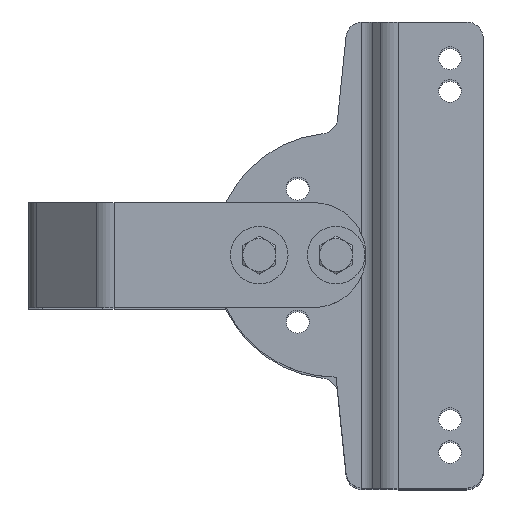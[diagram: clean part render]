
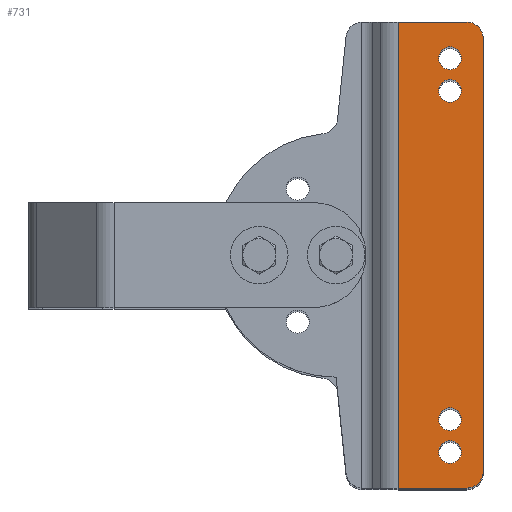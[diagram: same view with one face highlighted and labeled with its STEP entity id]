
A CAD part, top view. The second image highlights one B-rep face of the part: STEP entity #731.
In plain terms, the highlighted planar face has unit normal (0, 0, 1) as drawn and (0, -1, 0) by its records, which use the part's own axes.
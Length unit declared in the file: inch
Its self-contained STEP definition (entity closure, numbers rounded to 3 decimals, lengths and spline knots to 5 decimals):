
#30 = VERTEX_POINT ( 'NONE', #3849 ) ;
#85 = CIRCLE ( 'NONE', #738, 0.175 ) ;
#163 = FACE_BOUND ( 'NONE', #3963, .T. ) ;
#170 = DIRECTION ( 'NONE',  ( 0., 0., -1. ) ) ;
#196 = CARTESIAN_POINT ( 'NONE',  ( -0.895, -0.135, 3. ) ) ;
#244 = CIRCLE ( 'NONE', #898, 0.175 ) ;
#258 = AXIS2_PLACEMENT_3D ( 'NONE', #4131, #577, #2174 ) ;
#291 = ORIENTED_EDGE ( 'NONE', *, *, #1132, .T. ) ;
#297 = CIRCLE ( 'NONE', #3199, 0.175 ) ;
#452 = DIRECTION ( 'NONE',  ( 0., 0., 1. ) ) ;
#470 = CARTESIAN_POINT ( 'NONE',  ( -1.4, -0.135, 3.55 ) ) ;
#501 = CARTESIAN_POINT ( 'NONE',  ( -0.895, -0.135, -3.175 ) ) ;
#529 = ORIENTED_EDGE ( 'NONE', *, *, #2157, .F. ) ;
#577 = DIRECTION ( 'NONE',  ( 0., 1., 0. ) ) ;
#585 = AXIS2_PLACEMENT_3D ( 'NONE', #5068, #2739, #675 ) ;
#623 = ORIENTED_EDGE ( 'NONE', *, *, #2195, .T. ) ;
#629 = ORIENTED_EDGE ( 'NONE', *, *, #3645, .T. ) ;
#675 = DIRECTION ( 'NONE',  ( 0., 0., 1. ) ) ;
#729 = EDGE_LOOP ( 'NONE', ( #3059, #1850, #3751, #529, #2553, #629 ) ) ;
#731 = ADVANCED_FACE ( 'NONE', ( #163, #4856, #3334, #2952, #2165 ), #3233, .F. ) ;
#738 = AXIS2_PLACEMENT_3D ( 'NONE', #2720, #4288, #2352 ) ;
#745 = EDGE_CURVE ( 'NONE', #30, #4393, #4414, .T. ) ;
#765 = EDGE_CURVE ( 'NONE', #3121, #3750, #1192, .T. ) ;
#778 = CARTESIAN_POINT ( 'NONE',  ( -1.15, -0.135, -3.3 ) ) ;
#787 = EDGE_CURVE ( 'NONE', #2708, #1738, #2282, .T. ) ;
#814 = EDGE_CURVE ( 'NONE', #2145, #3464, #2679, .T. ) ;
#851 = CARTESIAN_POINT ( 'NONE',  ( -0.895, -0.135, 2.5 ) ) ;
#898 = AXIS2_PLACEMENT_3D ( 'NONE', #4473, #4005, #452 ) ;
#978 = CARTESIAN_POINT ( 'NONE',  ( -1.4, -0.135, -3.3 ) ) ;
#1007 = VECTOR ( 'NONE', #1923, 39.37008 ) ;
#1069 = ORIENTED_EDGE ( 'NONE', *, *, #4192, .T. ) ;
#1082 = CARTESIAN_POINT ( 'NONE',  ( -0.895, -0.135, -2.325 ) ) ;
#1123 = CARTESIAN_POINT ( 'NONE',  ( -0.895, -0.135, 2.325 ) ) ;
#1125 = CARTESIAN_POINT ( 'NONE',  ( -0.895, -0.135, -2.825 ) ) ;
#1132 = EDGE_CURVE ( 'NONE', #1738, #2708, #297, .T. ) ;
#1138 = CARTESIAN_POINT ( 'NONE',  ( -0.10355, -0.135, 3.55 ) ) ;
#1192 = CIRCLE ( 'NONE', #5009, 0.175 ) ;
#1245 = DIRECTION ( 'NONE',  ( 0., 0., 1. ) ) ;
#1433 = LINE ( 'NONE', #3032, #4480 ) ;
#1451 = CARTESIAN_POINT ( 'NONE',  ( -0.895, -0.135, 3. ) ) ;
#1454 = ORIENTED_EDGE ( 'NONE', *, *, #4126, .T. ) ;
#1636 = CARTESIAN_POINT ( 'NONE',  ( -0.895, -0.135, -2.675 ) ) ;
#1642 = DIRECTION ( 'NONE',  ( 0., 0., -1. ) ) ;
#1663 = CIRCLE ( 'NONE', #4233, 0.25 ) ;
#1675 = CARTESIAN_POINT ( 'NONE',  ( -1.15, -0.135, -3.55 ) ) ;
#1738 = VERTEX_POINT ( 'NONE', #1123 ) ;
#1779 = EDGE_CURVE ( 'NONE', #4449, #1908, #85, .T. ) ;
#1807 = AXIS2_PLACEMENT_3D ( 'NONE', #196, #3365, #4941 ) ;
#1820 = CARTESIAN_POINT ( 'NONE',  ( -1.15, -0.135, 3.55 ) ) ;
#1850 = ORIENTED_EDGE ( 'NONE', *, *, #2634, .T. ) ;
#1908 = VERTEX_POINT ( 'NONE', #1636 ) ;
#1921 = VERTEX_POINT ( 'NONE', #501 ) ;
#1923 = DIRECTION ( 'NONE',  ( 1., 0., 0. ) ) ;
#1935 = AXIS2_PLACEMENT_3D ( 'NONE', #2936, #4791, #1642 ) ;
#1957 = CARTESIAN_POINT ( 'NONE',  ( -0.10355, -0.135, -3.55 ) ) ;
#2000 = CARTESIAN_POINT ( 'NONE',  ( -1.4, -0.135, -3.55 ) ) ;
#2027 = CARTESIAN_POINT ( 'NONE',  ( -0.895, -0.135, 3.175 ) ) ;
#2054 = DIRECTION ( 'NONE',  ( 0., 0., -1. ) ) ;
#2145 = VERTEX_POINT ( 'NONE', #1820 ) ;
#2157 = EDGE_CURVE ( 'NONE', #3464, #4892, #1433, .T. ) ;
#2165 = FACE_OUTER_BOUND ( 'NONE', #729, .T. ) ;
#2170 = CIRCLE ( 'NONE', #585, 0.175 ) ;
#2174 = DIRECTION ( 'NONE',  ( 0., 0., 1. ) ) ;
#2190 = CARTESIAN_POINT ( 'NONE',  ( -0.895, -0.135, 2.5 ) ) ;
#2195 = EDGE_CURVE ( 'NONE', #1908, #4449, #2248, .T. ) ;
#2201 = AXIS2_PLACEMENT_3D ( 'NONE', #470, #4803, #1245 ) ;
#2224 = EDGE_LOOP ( 'NONE', ( #4400, #623 ) ) ;
#2248 = CIRCLE ( 'NONE', #258, 0.175 ) ;
#2282 = CIRCLE ( 'NONE', #2955, 0.175 ) ;
#2331 = EDGE_CURVE ( 'NONE', #1921, #3504, #2170, .T. ) ;
#2352 = DIRECTION ( 'NONE',  ( 0., 0., 1. ) ) ;
#2441 = DIRECTION ( 'NONE',  ( 0., 1., 0. ) ) ;
#2450 = CARTESIAN_POINT ( 'NONE',  ( -1.4, -0.135, 3.55 ) ) ;
#2553 = ORIENTED_EDGE ( 'NONE', *, *, #814, .F. ) ;
#2625 = DIRECTION ( 'NONE',  ( 0., 1., 0. ) ) ;
#2634 = EDGE_CURVE ( 'NONE', #4393, #3143, #1663, .T. ) ;
#2638 = CARTESIAN_POINT ( 'NONE',  ( -0.895, -0.135, 2.825 ) ) ;
#2679 = LINE ( 'NONE', #4597, #3684 ) ;
#2708 = VERTEX_POINT ( 'NONE', #3609 ) ;
#2720 = CARTESIAN_POINT ( 'NONE',  ( -0.895, -0.135, -2.5 ) ) ;
#2739 = DIRECTION ( 'NONE',  ( 0., 1., 0. ) ) ;
#2765 = DIRECTION ( 'NONE',  ( 0., 0., 1. ) ) ;
#2776 = EDGE_LOOP ( 'NONE', ( #1454, #4369 ) ) ;
#2936 = CARTESIAN_POINT ( 'NONE',  ( -1.15, -0.135, 3.3 ) ) ;
#2943 = DIRECTION ( 'NONE',  ( 0., 0., -1. ) ) ;
#2952 = FACE_BOUND ( 'NONE', #2224, .T. ) ;
#2955 = AXIS2_PLACEMENT_3D ( 'NONE', #2190, #3841, #5034 ) ;
#3032 = CARTESIAN_POINT ( 'NONE',  ( -0.10355, -0.135, 3.55 ) ) ;
#3059 = ORIENTED_EDGE ( 'NONE', *, *, #745, .T. ) ;
#3118 = EDGE_CURVE ( 'NONE', #3143, #4892, #4696, .T. ) ;
#3121 = VERTEX_POINT ( 'NONE', #2027 ) ;
#3138 = ORIENTED_EDGE ( 'NONE', *, *, #765, .T. ) ;
#3143 = VERTEX_POINT ( 'NONE', #1675 ) ;
#3199 = AXIS2_PLACEMENT_3D ( 'NONE', #851, #2441, #2943 ) ;
#3233 = PLANE ( 'NONE',  #2201 ) ;
#3334 = FACE_BOUND ( 'NONE', #4533, .T. ) ;
#3365 = DIRECTION ( 'NONE',  ( 0., 1., 0. ) ) ;
#3454 = DIRECTION ( 'NONE',  ( 1., 0., 0. ) ) ;
#3464 = VERTEX_POINT ( 'NONE', #1138 ) ;
#3504 = VERTEX_POINT ( 'NONE', #1125 ) ;
#3609 = CARTESIAN_POINT ( 'NONE',  ( -0.895, -0.135, 2.675 ) ) ;
#3645 = EDGE_CURVE ( 'NONE', #2145, #30, #4323, .T. ) ;
#3684 = VECTOR ( 'NONE', #3454, 39.37008 ) ;
#3699 = ORIENTED_EDGE ( 'NONE', *, *, #787, .T. ) ;
#3750 = VERTEX_POINT ( 'NONE', #2638 ) ;
#3751 = ORIENTED_EDGE ( 'NONE', *, *, #3118, .T. ) ;
#3841 = DIRECTION ( 'NONE',  ( 0., 1., 0. ) ) ;
#3849 = CARTESIAN_POINT ( 'NONE',  ( -1.4, -0.135, 3.3 ) ) ;
#3963 = EDGE_LOOP ( 'NONE', ( #3699, #291 ) ) ;
#4005 = DIRECTION ( 'NONE',  ( 0., 1., 0. ) ) ;
#4126 = EDGE_CURVE ( 'NONE', #3504, #1921, #244, .T. ) ;
#4131 = CARTESIAN_POINT ( 'NONE',  ( -0.895, -0.135, -2.5 ) ) ;
#4192 = EDGE_CURVE ( 'NONE', #3750, #3121, #4966, .T. ) ;
#4233 = AXIS2_PLACEMENT_3D ( 'NONE', #778, #4778, #2765 ) ;
#4288 = DIRECTION ( 'NONE',  ( 0., 1., 0. ) ) ;
#4323 = CIRCLE ( 'NONE', #1935, 0.25 ) ;
#4369 = ORIENTED_EDGE ( 'NONE', *, *, #2331, .T. ) ;
#4393 = VERTEX_POINT ( 'NONE', #978 ) ;
#4400 = ORIENTED_EDGE ( 'NONE', *, *, #1779, .T. ) ;
#4414 = LINE ( 'NONE', #2450, #4764 ) ;
#4449 = VERTEX_POINT ( 'NONE', #1082 ) ;
#4473 = CARTESIAN_POINT ( 'NONE',  ( -0.895, -0.135, -3. ) ) ;
#4480 = VECTOR ( 'NONE', #170, 39.37008 ) ;
#4533 = EDGE_LOOP ( 'NONE', ( #3138, #1069 ) ) ;
#4597 = CARTESIAN_POINT ( 'NONE',  ( -1.4, -0.135, 3.55 ) ) ;
#4696 = LINE ( 'NONE', #2000, #1007 ) ;
#4764 = VECTOR ( 'NONE', #2054, 39.37008 ) ;
#4778 = DIRECTION ( 'NONE',  ( 0., -1., 0. ) ) ;
#4791 = DIRECTION ( 'NONE',  ( 0., -1., 0. ) ) ;
#4803 = DIRECTION ( 'NONE',  ( 0., 1., 0. ) ) ;
#4856 = FACE_BOUND ( 'NONE', #2776, .T. ) ;
#4892 = VERTEX_POINT ( 'NONE', #1957 ) ;
#4941 = DIRECTION ( 'NONE',  ( 0., 0., -1. ) ) ;
#4959 = DIRECTION ( 'NONE',  ( 0., 0., -1. ) ) ;
#4966 = CIRCLE ( 'NONE', #1807, 0.175 ) ;
#5009 = AXIS2_PLACEMENT_3D ( 'NONE', #1451, #2625, #4959 ) ;
#5034 = DIRECTION ( 'NONE',  ( 0., 0., -1. ) ) ;
#5068 = CARTESIAN_POINT ( 'NONE',  ( -0.895, -0.135, -3. ) ) ;
